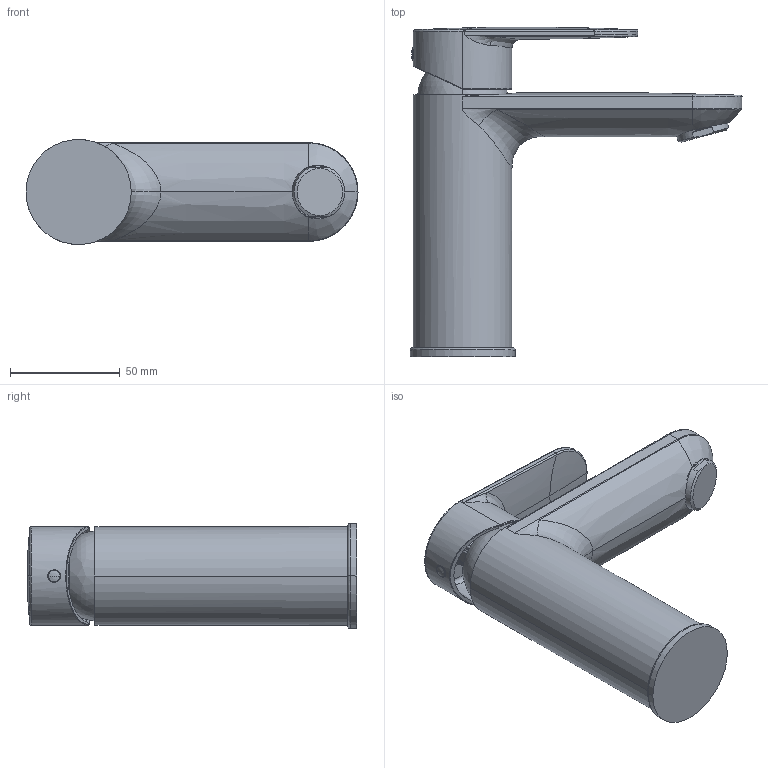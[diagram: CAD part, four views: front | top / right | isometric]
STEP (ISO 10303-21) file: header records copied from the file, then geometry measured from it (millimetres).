
FILE_DESCRIPTION((''),'2;1');
FILE_NAME('12_381_051_XXX','2018-02-19T',('ES997'),(''),'CREO PARAMETRIC BY PTC INC, 2016260','CREO PARAMETRIC BY PTC INC, 2016260','');
FILE_SCHEMA(('CONFIG_CONTROL_DESIGN'));
Length unit declared in the file: millimetre
Products named in the file (1): 12_381_051_XXX
Bounding box: 151.5 x 150.26 x 48 mm (x, y, z)
Volume: 300365.5 mm3; surface area: 47426.7 mm2
Topology: 1 solids, 1 shells, 137 faces, 375 edges, 242 vertices
Faces by surface type: bspline 55, cylinder 37, plane 24, cone 8, torus 7, extrusion 4, sphere 2
Entity records: 12720 total; most frequent: CARTESIAN_POINT 9793, ORIENTED_EDGE 742, DIRECTION 380, EDGE_CURVE 371, VERTEX_POINT 242, B_SPLINE_CURVE_WITH_KNOTS 223, AXIS2_PLACEMENT_3D 146, EDGE_LOOP 143
